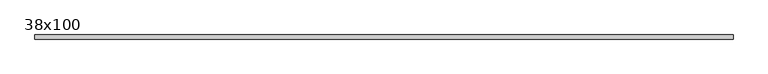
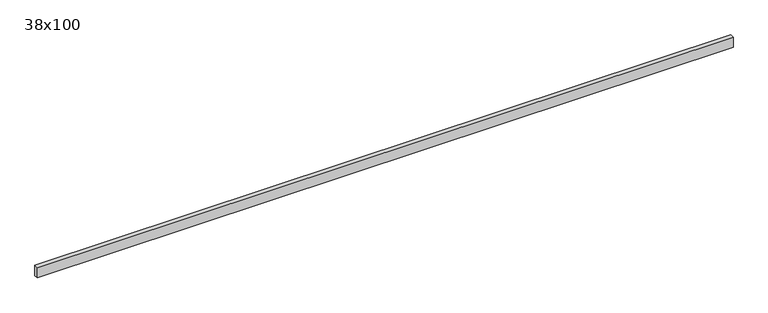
"""IFC4 building model written with IfcOpenShell, lengths in millimetres: beam geometry, Poutre - Bois de construction de dimensions courantes : 38x100."""

from ifc_helpers import new_model, si_unit, frame, origin, place, context, project, spatial, polyline, outline, extrude, source, transform, mapped, element, save


def beam_38x100_930ca634(model_context):
    return source(origin(), model_context, "Body", "SweptSolid", [
        extrude(outline(polyline([(3232.0, 19.05), (3232.0, -19.05), (-3232.0, -19.05), (-3232.0, 19.05), (3232.0, 19.05)])), frame((0.0, 0.0, -50.0), z_axis=(0.0, 0.0, 1.0), x_axis=(1.0, 0.0, 0.0)), (0.0, 0.0, 1.0), 100.0),
    ])


if __name__ == "__main__":
    model = new_model("IFC4")
    model_context = context("Model", 3, world=origin())
    ifc_project = project(units=[si_unit("LENGTHUNIT", "METRE", prefix="MILLI")], contexts=[model_context])
    site = spatial("IfcSite", under=ifc_project)
    building = spatial("IfcBuilding", under=site)
    placement = place(None, origin())
    beam_38x100_shape = beam_38x100_930ca634(model_context)
    element("IfcBeam", 1, ObjectType="Poutre - Bois de construction de dimensions courantes : 38x100", at=placement, inside=building, context=model_context, shape_type="MappedRepresentation", body=[
        mapped(beam_38x100_shape, transform((0.0, 0.0, 0.0), x_axis=(1.0, 0.0, 0.0), y_axis=(0.0, 1.0, 0.0), z_axis=(0.0, 0.0, 1.0))),
    ])
    save(model, "model.ifc")
